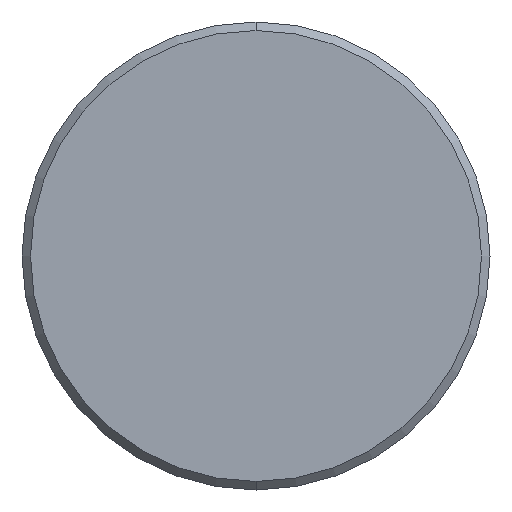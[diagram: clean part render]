
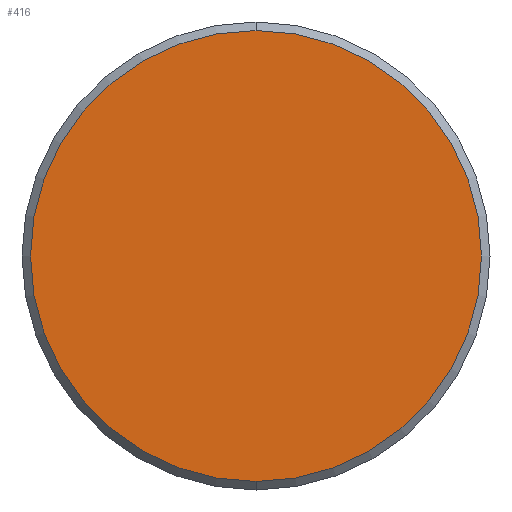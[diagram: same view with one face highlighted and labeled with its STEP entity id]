
A CAD part, left-side view. The second image highlights one B-rep face of the part: STEP entity #416.
In plain terms, the highlighted planar face has unit normal (-1, 0, 0).
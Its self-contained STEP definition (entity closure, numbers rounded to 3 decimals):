
#2 = DIRECTION ( 'NONE',  ( -1., 0., 0. ) ) ;
#53 = DIRECTION ( 'NONE',  ( 1., 0., 0. ) ) ;
#57 = CARTESIAN_POINT ( 'NONE',  ( 0., 0., 0. ) ) ;
#90 = EDGE_LOOP ( 'NONE', ( #289, #443 ) ) ;
#97 = VERTEX_POINT ( 'NONE', #526 ) ;
#136 = EDGE_CURVE ( 'NONE', #584, #97, #362, .T. ) ;
#150 = FACE_OUTER_BOUND ( 'NONE', #90, .T. ) ;
#252 = CARTESIAN_POINT ( 'NONE',  ( 0., 0., 0. ) ) ;
#262 = DIRECTION ( 'NONE',  ( 0., 0., -1. ) ) ;
#289 = ORIENTED_EDGE ( 'NONE', *, *, #136, .T. ) ;
#304 = DIRECTION ( 'NONE',  ( -1., 0., 0. ) ) ;
#362 = CIRCLE ( 'NONE', #440, 53. ) ;
#395 = DIRECTION ( 'NONE',  ( 0., 0., -1. ) ) ;
#416 = ADVANCED_FACE ( 'NONE', ( #150 ), #452, .F. ) ;
#434 = CARTESIAN_POINT ( 'NONE',  ( 0., 0., -53. ) ) ;
#440 = AXIS2_PLACEMENT_3D ( 'NONE', #57, #2, #262 ) ;
#443 = ORIENTED_EDGE ( 'NONE', *, *, #586, .T. ) ;
#452 = PLANE ( 'NONE',  #537 ) ;
#482 = DIRECTION ( 'NONE',  ( 0., 0., -1. ) ) ;
#525 = AXIS2_PLACEMENT_3D ( 'NONE', #252, #304, #395 ) ;
#526 = CARTESIAN_POINT ( 'NONE',  ( 0., 0., 53. ) ) ;
#537 = AXIS2_PLACEMENT_3D ( 'NONE', #558, #53, #482 ) ;
#558 = CARTESIAN_POINT ( 'NONE',  ( 0., 0., 0. ) ) ;
#567 = CIRCLE ( 'NONE', #525, 53. ) ;
#584 = VERTEX_POINT ( 'NONE', #434 ) ;
#586 = EDGE_CURVE ( 'NONE', #97, #584, #567, .T. ) ;
